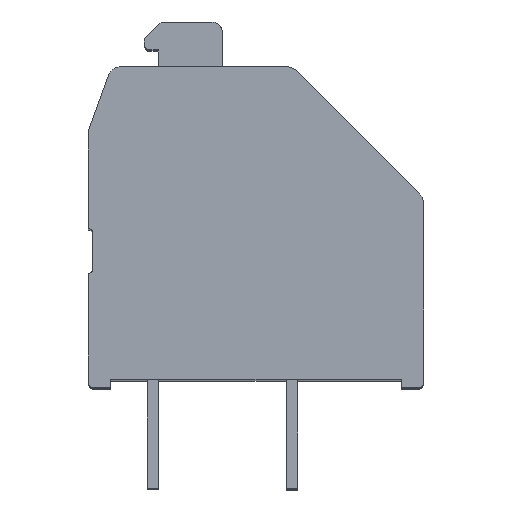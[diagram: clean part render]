
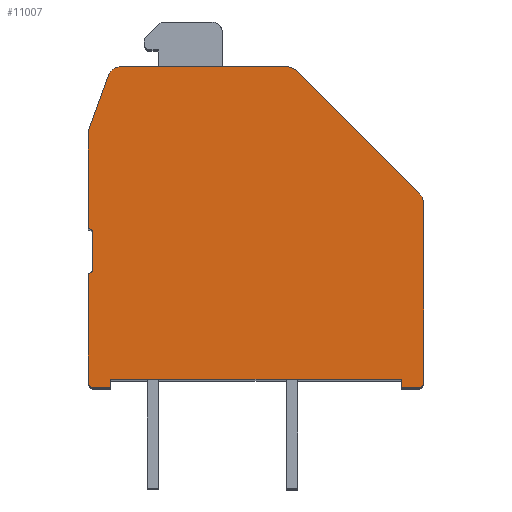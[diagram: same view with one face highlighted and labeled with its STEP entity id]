
A CAD part, top view. The second image highlights one B-rep face of the part: STEP entity #11007.
In plain terms, the highlighted planar face has unit normal (0, 0, 1).
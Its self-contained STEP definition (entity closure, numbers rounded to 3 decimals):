
#59=CIRCLE('',#11371,0.5);
#140=CIRCLE('',#11654,0.15);
#142=CIRCLE('',#11658,0.15);
#144=CIRCLE('',#11663,0.5);
#146=CIRCLE('',#11666,0.5);
#201=CIRCLE('',#11854,0.2);
#202=CIRCLE('',#11860,0.2);
#450=PLANE('',#11861);
#735=LINE('',#15400,#2052);
#1119=LINE('',#16390,#2436);
#1318=LINE('',#16878,#2635);
#1323=LINE('',#16889,#2640);
#1328=LINE('',#16903,#2645);
#1335=LINE('',#16920,#2652);
#1412=LINE('',#17050,#2729);
#1417=LINE('',#17066,#2734);
#1580=LINE('',#17527,#2897);
#1581=LINE('',#17529,#2898);
#1583=LINE('',#17533,#2900);
#1585=LINE('',#17537,#2902);
#2052=VECTOR('',#12260,1000.);
#2436=VECTOR('',#13118,1000.);
#2635=VECTOR('',#13523,1000.);
#2640=VECTOR('',#13530,1000.);
#2645=VECTOR('',#13543,1000.);
#2652=VECTOR('',#13558,1000.);
#2729=VECTOR('',#13637,1000.);
#2734=VECTOR('',#13656,1000.);
#2897=VECTOR('',#14195,1000.);
#2898=VECTOR('',#14198,1000.);
#2900=VECTOR('',#14202,1000.);
#2902=VECTOR('',#14206,1000.);
#5195=ORIENTED_EDGE('',*,*,#7375,.T.);
#5196=ORIENTED_EDGE('',*,*,#7379,.F.);
#5197=ORIENTED_EDGE('',*,*,#7382,.T.);
#5198=ORIENTED_EDGE('',*,*,#7385,.F.);
#5199=ORIENTED_EDGE('',*,*,#7391,.T.);
#5200=ORIENTED_EDGE('',*,*,#7693,.T.);
#5201=ORIENTED_EDGE('',*,*,#7695,.T.);
#5202=ORIENTED_EDGE('',*,*,#7696,.T.);
#5203=ORIENTED_EDGE('',*,*,#7370,.T.);
#5204=ORIENTED_EDGE('',*,*,#7698,.T.);
#5205=ORIENTED_EDGE('',*,*,#7700,.T.);
#5206=ORIENTED_EDGE('',*,*,#7701,.T.);
#5207=ORIENTED_EDGE('',*,*,#7468,.T.);
#5208=ORIENTED_EDGE('',*,*,#7472,.T.);
#5209=ORIENTED_EDGE('',*,*,#6618,.T.);
#5210=ORIENTED_EDGE('',*,*,#6685,.T.);
#5211=ORIENTED_EDGE('',*,*,#7121,.T.);
#5212=ORIENTED_EDGE('',*,*,#7475,.T.);
#5213=ORIENTED_EDGE('',*,*,#7477,.T.);
#6618=EDGE_CURVE('',#8236,#8235,#735,.T.);
#6685=EDGE_CURVE('',#8235,#8289,#59,.T.);
#7121=EDGE_CURVE('',#8289,#8604,#1119,.T.);
#7370=EDGE_CURVE('',#8791,#8790,#1318,.T.);
#7375=EDGE_CURVE('',#8796,#8795,#1323,.T.);
#7379=EDGE_CURVE('',#8798,#8795,#140,.T.);
#7382=EDGE_CURVE('',#8798,#8800,#1328,.T.);
#7385=EDGE_CURVE('',#8802,#8800,#142,.T.);
#7391=EDGE_CURVE('',#8802,#8806,#1335,.T.);
#7468=EDGE_CURVE('',#8859,#8858,#1412,.T.);
#7472=EDGE_CURVE('',#8858,#8236,#144,.T.);
#7475=EDGE_CURVE('',#8604,#8862,#146,.T.);
#7477=EDGE_CURVE('',#8862,#8796,#1417,.T.);
#7693=EDGE_CURVE('',#8806,#8971,#201,.T.);
#7695=EDGE_CURVE('',#8971,#8972,#1580,.T.);
#7696=EDGE_CURVE('',#8972,#8791,#1581,.T.);
#7698=EDGE_CURVE('',#8790,#8973,#1583,.T.);
#7700=EDGE_CURVE('',#8973,#8974,#1585,.T.);
#7701=EDGE_CURVE('',#8974,#8859,#202,.T.);
#8235=VERTEX_POINT('',#15399);
#8236=VERTEX_POINT('',#15401);
#8289=VERTEX_POINT('',#15532);
#8604=VERTEX_POINT('',#16389);
#8790=VERTEX_POINT('',#16877);
#8791=VERTEX_POINT('',#16879);
#8795=VERTEX_POINT('',#16888);
#8796=VERTEX_POINT('',#16890);
#8798=VERTEX_POINT('',#16896);
#8800=VERTEX_POINT('',#16902);
#8802=VERTEX_POINT('',#16908);
#8806=VERTEX_POINT('',#16919);
#8858=VERTEX_POINT('',#17049);
#8859=VERTEX_POINT('',#17051);
#8862=VERTEX_POINT('',#17062);
#8971=VERTEX_POINT('',#17522);
#8972=VERTEX_POINT('',#17526);
#8973=VERTEX_POINT('',#17532);
#8974=VERTEX_POINT('',#17536);
#9684=EDGE_LOOP('',(#5195,#5196,#5197,#5198,#5199,#5200,#5201,#5202,#5203,
#5204,#5205,#5206,#5207,#5208,#5209,#5210,#5211,#5212,#5213));
#10303=FACE_BOUND('',#9684,.T.);
#11007=ADVANCED_FACE('',(#10303),#450,.T.);
#11371=AXIS2_PLACEMENT_3D('',#15533,#12399,#12400);
#11654=AXIS2_PLACEMENT_3D('',#16897,#13537,#13538);
#11658=AXIS2_PLACEMENT_3D('',#16909,#13549,#13550);
#11663=AXIS2_PLACEMENT_3D('',#17057,#13644,#13645);
#11666=AXIS2_PLACEMENT_3D('',#17063,#13651,#13652);
#11854=AXIS2_PLACEMENT_3D('',#17523,#14190,#14191);
#11860=AXIS2_PLACEMENT_3D('',#17539,#14209,#14210);
#11861=AXIS2_PLACEMENT_3D('',#17540,#14211,#14212);
#12260=DIRECTION('',(-0.707,0.707,0.));
#12399=DIRECTION('',(0.,0.,1.));
#12400=DIRECTION('',(1.,0.,0.));
#13118=DIRECTION('',(-1.,0.,0.));
#13523=DIRECTION('',(1.,0.,0.));
#13530=DIRECTION('',(0.,-1.,0.));
#13537=DIRECTION('',(0.,0.,1.));
#13538=DIRECTION('',(1.,0.,0.));
#13543=DIRECTION('',(0.,-1.,0.));
#13549=DIRECTION('',(0.,0.,1.));
#13550=DIRECTION('',(1.,0.,0.));
#13558=DIRECTION('',(0.,-1.,0.));
#13637=DIRECTION('',(0.,1.,0.));
#13644=DIRECTION('',(0.,0.,1.));
#13645=DIRECTION('',(1.,0.,0.));
#13651=DIRECTION('',(0.,0.,1.));
#13652=DIRECTION('',(1.,0.,0.));
#13656=DIRECTION('',(-0.342,-0.94,0.));
#14190=DIRECTION('',(0.,0.,1.));
#14191=DIRECTION('',(1.,0.,0.));
#14195=DIRECTION('',(1.,0.,0.));
#14198=DIRECTION('',(0.,1.,0.));
#14202=DIRECTION('',(0.,-1.,0.));
#14206=DIRECTION('',(1.,0.,0.));
#14209=DIRECTION('',(0.,0.,1.));
#14210=DIRECTION('',(1.,0.,0.));
#14211=DIRECTION('',(0.,0.,1.));
#14212=DIRECTION('',(1.,0.,0.));
#15399=CARTESIAN_POINT('',(0.146,11.354,34.52));
#15400=CARTESIAN_POINT('',(4.554,6.946,34.52));
#15401=CARTESIAN_POINT('',(4.554,6.946,34.52));
#15532=CARTESIAN_POINT('',(-0.207,11.5,34.52));
#15533=CARTESIAN_POINT('',(-0.207,11.,34.52));
#16389=CARTESIAN_POINT('',(-6.113,11.5,34.52));
#16390=CARTESIAN_POINT('',(-0.207,11.5,34.52));
#16877=CARTESIAN_POINT('',(3.9,0.3,34.52));
#16878=CARTESIAN_POINT('',(-6.5,0.3,34.52));
#16879=CARTESIAN_POINT('',(-6.5,0.3,34.52));
#16888=CARTESIAN_POINT('',(-7.3,5.7,34.52));
#16889=CARTESIAN_POINT('',(-7.3,9.2,34.52));
#16890=CARTESIAN_POINT('',(-7.3,9.2,34.52));
#16896=CARTESIAN_POINT('',(-7.15,5.55,34.52));
#16897=CARTESIAN_POINT('',(-7.3,5.55,34.52));
#16902=CARTESIAN_POINT('',(-7.15,4.25,34.52));
#16903=CARTESIAN_POINT('',(-7.15,5.55,34.52));
#16908=CARTESIAN_POINT('',(-7.3,4.1,34.52));
#16909=CARTESIAN_POINT('',(-7.3,4.25,34.52));
#16919=CARTESIAN_POINT('',(-7.3,0.2,34.52));
#16920=CARTESIAN_POINT('',(-7.3,4.1,34.52));
#17049=CARTESIAN_POINT('',(4.7,6.593,34.52));
#17050=CARTESIAN_POINT('',(4.7,0.2,34.52));
#17051=CARTESIAN_POINT('',(4.7,0.2,34.52));
#17057=CARTESIAN_POINT('',(4.2,6.593,34.52));
#17062=CARTESIAN_POINT('',(-6.583,11.171,34.52));
#17063=CARTESIAN_POINT('',(-6.113,11.,34.52));
#17066=CARTESIAN_POINT('',(-6.583,11.171,34.52));
#17522=CARTESIAN_POINT('',(-7.1,0.,34.52));
#17523=CARTESIAN_POINT('',(-7.1,0.2,34.52));
#17526=CARTESIAN_POINT('',(-6.5,0.,34.52));
#17527=CARTESIAN_POINT('',(-7.1,0.,34.52));
#17529=CARTESIAN_POINT('',(-6.5,0.,34.52));
#17532=CARTESIAN_POINT('',(3.9,0.,34.52));
#17533=CARTESIAN_POINT('',(3.9,0.3,34.52));
#17536=CARTESIAN_POINT('',(4.5,0.,34.52));
#17537=CARTESIAN_POINT('',(3.9,0.,34.52));
#17539=CARTESIAN_POINT('',(4.5,0.2,34.52));
#17540=CARTESIAN_POINT('',(-7.3,5.55,34.52));
